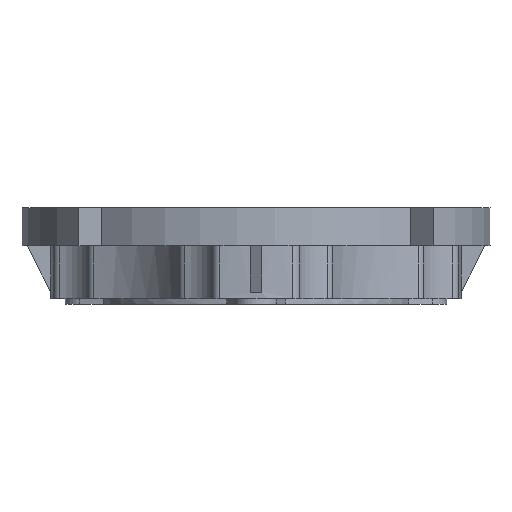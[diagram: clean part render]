
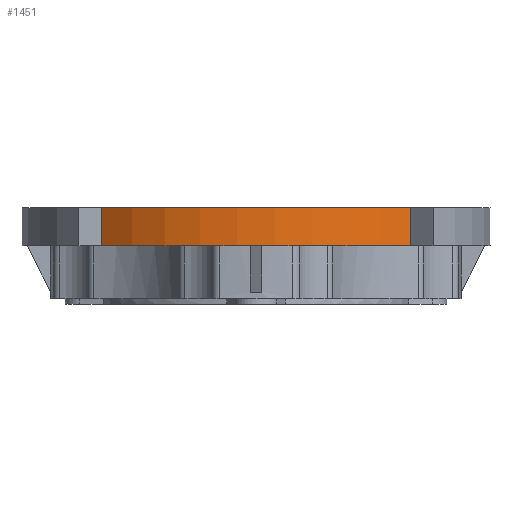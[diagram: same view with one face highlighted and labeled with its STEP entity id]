
A CAD part, left-side view. The second image highlights one B-rep face of the part: STEP entity #1451.
In plain terms, the highlighted cylindrical face has radius 80 mm (diameter 160 mm), a partial arc.
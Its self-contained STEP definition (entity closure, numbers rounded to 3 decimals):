
#1451=ADVANCED_FACE('',(#1629),#4641,.T.);
#1629=FACE_OUTER_BOUND('',#1807,.T.);
#1807=EDGE_LOOP('',(#1993,#1994,#1995,#1996));
#1993=ORIENTED_EDGE('',*,*,#3005,.T.);
#1994=ORIENTED_EDGE('',*,*,#3006,.T.);
#1995=ORIENTED_EDGE('',*,*,#3007,.T.);
#1996=ORIENTED_EDGE('',*,*,#3008,.T.);
#3005=EDGE_CURVE('',#4217,#4218,#3817,.T.);
#3006=EDGE_CURVE('',#4218,#4219,#3515,.T.);
#3007=EDGE_CURVE('',#4219,#4220,#3818,.T.);
#3008=EDGE_CURVE('',#4220,#4217,#3516,.T.);
#3515=B_SPLINE_CURVE_WITH_KNOTS('',1,(#6393,#6394),.UNSPECIFIED.,.F.,.F.,
(2,2),(0.,13.),.UNSPECIFIED.);
#3516=B_SPLINE_CURVE_WITH_KNOTS('',1,(#6398,#6399),.UNSPECIFIED.,.F.,.F.,
(2,2),(0.,13.),.UNSPECIFIED.);
#3817=TRIMMED_CURVE($,#4017,(#6391),(#6392),.T.,.CARTESIAN.);
#3818=TRIMMED_CURVE($,#4018,(#6396),(#6397),.T.,.CARTESIAN.);
#4017=CIRCLE('',#5086,80.);
#4018=CIRCLE('',#5087,80.);
#4217=VERTEX_POINT('',#6054);
#4218=VERTEX_POINT('',#6055);
#4219=VERTEX_POINT('',#6056);
#4220=VERTEX_POINT('',#6057);
#4641=CYLINDRICAL_SURFACE('',#4908,80.);
#4908=AXIS2_PLACEMENT_3D('',#5876,#5292,$);
#5086=AXIS2_PLACEMENT_3D($,#6390,#5470,#5471);
#5087=AXIS2_PLACEMENT_3D($,#6395,#5472,#5473);
#5292=DIRECTION('',(1.,0.,0.));
#5470=DIRECTION('',(-1.,0.,0.));
#5471=DIRECTION('',(0.,-0.657,0.754));
#5472=DIRECTION('',(1.,0.,0.));
#5473=DIRECTION('',(0.,0.657,0.754));
#5876=CARTESIAN_POINT('',(26.5,0.,0.));
#6054=CARTESIAN_POINT('',(33.,-52.546,60.324));
#6055=CARTESIAN_POINT('',(33.,52.546,60.324));
#6056=CARTESIAN_POINT('',(20.,52.546,60.324));
#6057=CARTESIAN_POINT('',(20.,-52.546,60.324));
#6390=CARTESIAN_POINT('',(33.,0.,0.));
#6391=CARTESIAN_POINT('',(33.,-52.546,60.324));
#6392=CARTESIAN_POINT('',(33.,52.546,60.324));
#6393=CARTESIAN_POINT('',(33.,52.546,60.324));
#6394=CARTESIAN_POINT('',(20.,52.546,60.324));
#6395=CARTESIAN_POINT('',(20.,0.,0.));
#6396=CARTESIAN_POINT('',(20.,52.546,60.324));
#6397=CARTESIAN_POINT('',(20.,-52.546,60.324));
#6398=CARTESIAN_POINT('',(20.,-52.546,60.324));
#6399=CARTESIAN_POINT('',(33.,-52.546,60.324));
